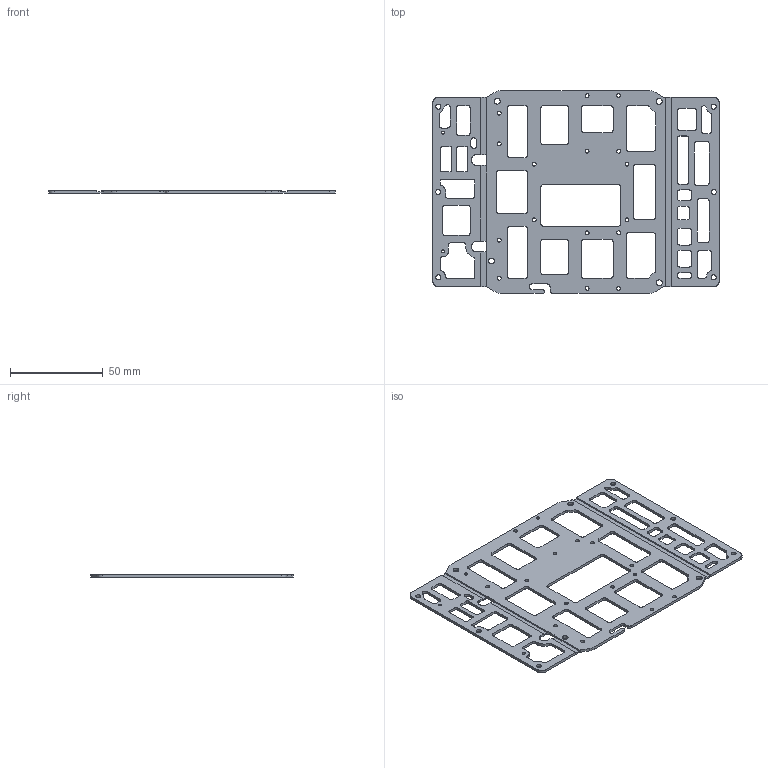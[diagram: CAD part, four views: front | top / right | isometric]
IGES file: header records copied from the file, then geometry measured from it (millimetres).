
Global section: file name: C:\Users\Knabe\Documents\Classes\8 Semester 8\DARwIn\Deliverables\DARwIn OP\DARwIn OP Part Files\CAD 2D\2D IGS\5_PR13_B01_FRM_PCB_MAIN_B.igs; native system: NX V7.0; preprocessor: SIEMENS PLM Software NX 7.0; date: 20110525.172338; units: millimetre
Bounding box: 154.53 x 109.2 x 1.5 mm (x, y, z)
Surface area: 23420.9 mm2 (no closed solid volume)
Topology: 0 solids, 0 shells, 438 faces, 3178 edges, 3221 vertices
Faces by surface type: bspline 438
